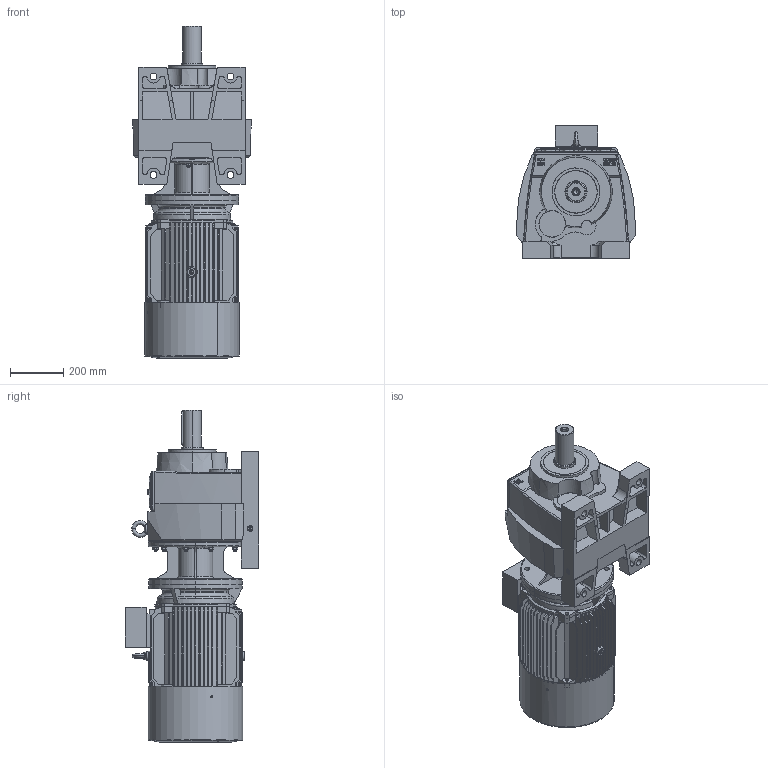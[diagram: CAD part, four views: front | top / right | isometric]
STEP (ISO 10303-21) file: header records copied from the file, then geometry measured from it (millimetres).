
FILE_DESCRIPTION (( 'STEP AP203' ), '1' );
FILE_NAME ('MV672-MV673-M3-180M.STEP', '2019-07-24T09:11:39', ( '' ), ( '' ), 'SwSTEP 2.0', 'SolidWorks 2012', '' );
FILE_SCHEMA (( 'CONFIG_CONTROL_DESIGN' ));
Products named in the file (12): M3-180M-FF-B5; MV672-MV673-M3-180M; Y2-180MB5+À+¿_-++ñ; Y2-180-4.6.8+ª-¯ª­-È®+_-++ñ; Eyebolts GB_GB_FASTENER_SCREWS_FRS M12_1; Y2-180C++A+¦-¯ª¦+¦_-++ñ; MN_67_3_0_A-B18_B5_ML6A_0_0_0_0_0_0_0_0_0_0_0_0_M1; Y2-180+¦i-_-++ñ; Y2-180-4.6.8-ª+---®+_-++ñ; ML6A_Varsayìlan; 63180B5_Varsayìlan; M673_Varsayìlan
Assembly tree (11 placements, depth 3):
  MV672-MV673-M3-180M
    MN_67_3_0_A-B18_B5_ML6A_0_0_0_0_0_0_0_0_0_0_0_0_M1
      M673_Varsayìlan
      63180B5_Varsayìlan
      ML6A_Varsayìlan
    M3-180M-FF-B5
      Y2-180C++A+¦-¯ª¦+¦_-++ñ
      Y2-180+¦i-_-++ñ
      Y2-180-4.6.8-ª+---®+_-++ñ
      Eyebolts GB_GB_FASTENER_SCREWS_FRS M12_1
      Y2-180MB5+À+¿_-++ñ
      Y2-180-4.6.8+ª-¯ª­-È®+_-++ñ
Bounding box: 445 x 500.85 x 1249 mm (x, y, z)
Volume: 59393293.7 mm3; surface area: 4387004.8 mm2
Topology: 10 solids, 10 shells, 2018 faces, 5163 edges, 3271 vertices
Faces by surface type: plane 847, cone 501, cylinder 484, bspline 154, torus 32
Entity records: 82035 total; most frequent: CARTESIAN_POINT 34087, ORIENTED_EDGE 10296, DIRECTION 8948, EDGE_CURVE 5148, AXIS2_PLACEMENT_3D 3335, VERTEX_POINT 3271, VECTOR 2278, LINE 2278
